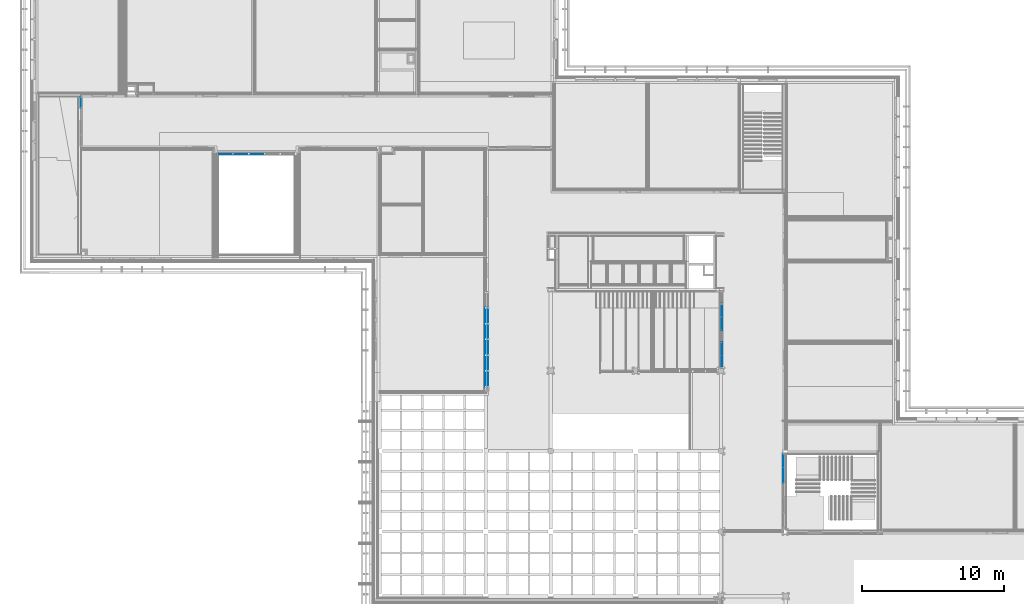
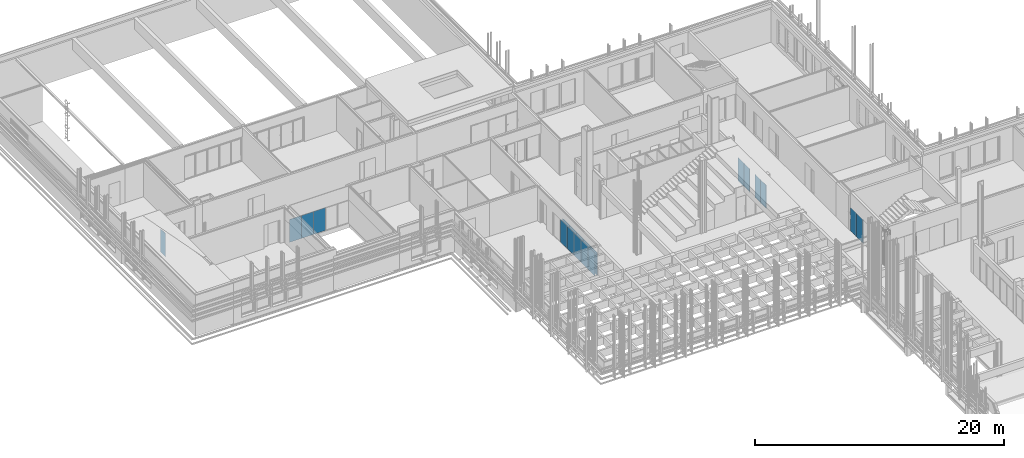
# One storey, part 18 of 139: 20 plates, 6 elements without a shape of their own.
"""IFC2X3 building model written with IfcOpenShell, lengths in millimetres."""

from ifc_helpers import new_model, entity, si_unit, converted_unit, derived_unit, money_unit, direction, frame, origin_with_axes, place, context, subcontext, project, spatial, faceted_brep, source, transform, mapped, material, type_object, element, aggregate, save


model = new_model("IFC2X3")

# Units and contexts
model_context = context("Model", 3, precision=0.01, world=origin_with_axes(), true_north=direction((0.0, 1.0)))
body_context = subcontext(model_context, "Body", "Model", "MODEL_VIEW")
ifc_project = project(units=[si_unit("LENGTHUNIT", "METRE", prefix="MILLI"), si_unit("AREAUNIT", "SQUARE_METRE"), si_unit("VOLUMEUNIT", "CUBIC_METRE"), converted_unit("PLANEANGLEUNIT", "DEGREE", entity("IfcPlaneAngleMeasure", 0.0174532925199), si_unit("PLANEANGLEUNIT", "RADIAN"), dimensions=[0, 0, 0, 0, 0, 0, 0]), money_unit("EUR"), converted_unit("TIMEUNIT", "Year", entity("IfcTimeMeasure", 31556926.0), si_unit("TIMEUNIT", "SECOND"), dimensions=[0, 0, 1, 0, 0, 0, 0]), si_unit("MASSUNIT", "GRAM", prefix="KILO"), si_unit("THERMODYNAMICTEMPERATUREUNIT", "DEGREE_CELSIUS"), si_unit("LUMINOUSINTENSITYUNIT", "LUMEN"), si_unit("ENERGYUNIT", "JOULE", prefix="MEGA"), derived_unit("THERMALCONDUCTANCEUNIT", [(si_unit("POWERUNIT", "WATT"), 1), (si_unit("LENGTHUNIT", "METRE"), -1), (si_unit("THERMODYNAMICTEMPERATUREUNIT", "KELVIN"), -1)]), derived_unit("SPECIFICHEATCAPACITYUNIT", [(si_unit("ENERGYUNIT", "JOULE"), 1), (si_unit("MASSUNIT", "GRAM", prefix="KILO"), -1), (si_unit("THERMODYNAMICTEMPERATUREUNIT", "KELVIN"), -1)]), derived_unit("MASSDENSITYUNIT", [(si_unit("MASSUNIT", "GRAM", prefix="KILO"), 1), (si_unit("VOLUMEUNIT", "CUBIC_METRE"), -1)])], contexts=[model_context])

# Site, building, storey
site_placement = place(None, origin_with_axes())
site = spatial("IfcSite", under=ifc_project, at=site_placement, Name="Kolde pst 67a", CompositionType="ELEMENT")
building_placement = place(site_placement, origin_with_axes())
building = spatial("IfcBuilding", under=site, at=building_placement, Name="Riigigümnaasium", CompositionType="ELEMENT")
storey_placement = place(building_placement, frame((0.0, 0.0, 4600.0), z_axis=(0.0, 0.0, 1.0), x_axis=(1.0, 0.0, 0.0)))
storey = spatial("IfcBuildingStorey", under=building, at=storey_placement, Name="2. korrus", CompositionType="ELEMENT", Elevation=4600.0)

# Curtain wall, plate
curtain_wall_type = type_object("IfcCurtainWallType", Name="Curtain Wall Type", PredefinedType="NOTDEFINED")
curtain_wall_1_placement = place(storey_placement, frame((3208.80952236, 58094.9979478, 0.0), z_axis=(0.0, 0.0, 1.0), x_axis=(1.0, 0.0, 0.0)))
curtain_wall_1 = element("IfcCurtainWall", 1, at=curtain_wall_1_placement, inside=storey, type_object=curtain_wall_type, Name="KLAASSEIN")
ifc_material = material(Name="_GENEERILINE MATERJAL KLAAS")
plate_type_1 = type_object("IfcPlateType", Name="Distinct Panel 20 x 20 x 20", PredefinedType="NOTDEFINED")
shared_shape_1 = source(origin_with_axes(), body_context, "Body", "Brep", [
    faceted_brep([(1019.9999931, 2300.00008941, -10.0), (999.999984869, 2300.00008941, -10.0), (999.999984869, 2300.00008941, 10.0), (1019.9999931, 2300.00008941, 10.0), (1019.9999931, 0.0, -10.0), (999.999984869, 0.0, -10.0), (999.999984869, 20.000008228, -10.0), (264.999999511, 20.000008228, -10.0), (264.999999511, 2280.00008118, -10.0), (999.999984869, 2280.00008118, -10.0), (999.999984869, 2280.00008118, 10.0), (264.999999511, 2280.00008118, 10.0), (264.999999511, 20.000008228, 10.0), (999.999984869, 20.000008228, 10.0), (999.999984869, 0.0, 10.0), (1019.9999931, 0.0, 10.0)], [[[0, 1, 2, 3]], [[0, 4, 5, 6, 7, 8, 9, 1]], [[1, 9, 10, 2]], [[3, 2, 10, 11, 12, 13, 14, 15]], [[4, 0, 3, 15]], [[5, 4, 15, 14]], [[6, 5, 14, 13]], [[7, 6, 13, 12]], [[8, 7, 12, 11]], [[9, 8, 11, 10]]]),
])
plate_1_placement = place(curtain_wall_1_placement, frame((0.0, 877.500004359, 1150.0000447), z_axis=(0.0, 0.0, 1.0), x_axis=(0.0, 1.0, 0.0)))
plate_1 = element("IfcPlate", 2, at=plate_1_placement, type_object=plate_type_1, material=ifc_material, Name="RF PANEEL ERI-049", context=body_context, shape_type="MappedRepresentation", body=[
    mapped(shared_shape_1, transform((622.499995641, 0.0, -1150.0000447), x_axis=(-1.0, 0.0, 0.0), y_axis=(0.0, 0.0, 1.0), z_axis=(0.0, 1.0, 0.0))),
])
aggregate(curtain_wall_1, [plate_1])

# Curtain wall, plates
curtain_wall_2_placement = place(storey_placement, frame((31870.0027331, 43954.3993317, -4.05869560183e-06), z_axis=(0.0, 0.0, 1.0), x_axis=(1.0, 0.0, 0.0)))
curtain_wall_2 = element("IfcCurtainWall", 3, at=curtain_wall_2_placement, inside=storey, type_object=curtain_wall_type, Name="KLAASSEIN")
plate_type_2 = type_object("IfcPlateType", Name="Distinct Panel 1100 x 2240 x 20", PredefinedType="NOTDEFINED")
shared_shape_2 = source(origin_with_axes(), body_context, "Body", "Brep", [
    faceted_brep([(-1105.00001089, 2270.00000997, -10.0), (-1105.00001089, 2270.00000997, 10.0), (-5.00001043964, 2270.00000997, 10.0), (-5.00001043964, 2270.00000997, -10.0), (-1105.00001089, 29.9999940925, -10.0), (-1105.00001089, 29.9999940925, 10.0), (-5.00001043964, 29.9999940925, 10.0), (-5.00001043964, 29.9999940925, -10.0)], [[[0, 1, 2, 3]], [[4, 5, 1, 0]], [[1, 5, 6, 2]], [[3, 2, 6, 7]], [[0, 3, 7, 4]], [[7, 6, 5, 4]]]),
])
plate_2_placement = place(curtain_wall_2_placement, frame((0.0, 0.0, 1150.00000203), z_axis=(0.0, 0.0, 1.0), x_axis=(0.0, 1.0, 0.0)))
plate_2 = element("IfcPlate", 4, at=plate_2_placement, type_object=plate_type_2, material=ifc_material, Name="RF PANEEL ERI-020", context=body_context, shape_type="MappedRepresentation", body=[
    mapped(shared_shape_2, transform((555.0, 0.0, -1150.00000203), x_axis=(1.0, 0.0, 0.0), y_axis=(0.0, 0.0, 1.0), z_axis=(0.0, -1.0, 0.0))),
])
plate_3_placement = place(curtain_wall_2_placement, frame((0.0, -1110.0, 1150.00000203), z_axis=(0.0, 0.0, 1.0), x_axis=(0.0, 1.0, 0.0)))
plate_3 = element("IfcPlate", 5, at=plate_3_placement, type_object=plate_type_2, material=ifc_material, Name="RF PANEEL ERI-021", context=body_context, shape_type="MappedRepresentation", body=[
    mapped(shared_shape_2, transform((555.0, 0.0, -1150.00000203), x_axis=(1.0, 0.0, 0.0), y_axis=(0.0, 0.0, 1.0), z_axis=(0.0, -1.0, 0.0))),
])
plate_4_placement = place(curtain_wall_2_placement, frame((0.0, -2220.0, 1150.00000203), z_axis=(0.0, 0.0, 1.0), x_axis=(0.0, 1.0, 0.0)))
plate_4 = element("IfcPlate", 6, at=plate_4_placement, type_object=plate_type_2, material=ifc_material, Name="RF PANEEL ERI-022", context=body_context, shape_type="MappedRepresentation", body=[
    mapped(shared_shape_2, transform((555.0, 0.0, -1150.00000203), x_axis=(1.0, 0.0, 0.0), y_axis=(0.0, 0.0, 1.0), z_axis=(0.0, -1.0, 0.0))),
])
plate_5_placement = place(curtain_wall_2_placement, frame((0.0, -3330.0, 1150.00000203), z_axis=(0.0, 0.0, 1.0), x_axis=(0.0, 1.0, 0.0)))
plate_5 = element("IfcPlate", 7, at=plate_5_placement, type_object=plate_type_2, material=ifc_material, Name="RF PANEEL ERI-023", context=body_context, shape_type="MappedRepresentation", body=[
    mapped(shared_shape_2, transform((555.0, 0.0, -1150.00000203), x_axis=(1.0, 0.0, 0.0), y_axis=(0.0, 0.0, 1.0), z_axis=(0.0, -1.0, 0.0))),
])
plate_6_placement = place(curtain_wall_2_placement, frame((0.0, -4440.0, 1150.00000203), z_axis=(0.0, 0.0, 1.0), x_axis=(0.0, 1.0, 0.0)))
plate_6 = element("IfcPlate", 8, at=plate_6_placement, type_object=plate_type_2, material=ifc_material, Name="RF PANEEL ERI-027", context=body_context, shape_type="MappedRepresentation", body=[
    mapped(shared_shape_2, transform((555.0, 0.0, -1150.00000203), x_axis=(1.0, 0.0, 0.0), y_axis=(0.0, 0.0, 1.0), z_axis=(0.0, -1.0, 0.0))),
])
aggregate(curtain_wall_2, [plate_2, plate_3, plate_4, plate_5, plate_6])

curtain_wall_3_placement = place(storey_placement, frame((15575.0032916, 55314.9743005, 0.0), z_axis=(0.0, 0.0, 1.0), x_axis=(1.0, 0.0, 0.0)))
curtain_wall_3 = element("IfcCurtainWall", 9, at=curtain_wall_3_placement, inside=storey, type_object=curtain_wall_type, Name="KLAASSEIN")
shared_shape_3 = source(origin_with_axes(), body_context, "Body", "Brep", [
    faceted_brep([(-1105.00001333, 2270.00008538, -10.0), (-1105.00001333, 2270.00008538, 10.0), (-5.00001060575, 2270.00008538, 10.0), (-5.00001060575, 2270.00008538, -10.0), (-1105.00001333, 29.9999950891, -10.0), (-1105.00001333, 29.9999950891, 10.0), (-5.00001060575, 29.9999950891, 10.0), (-5.00001060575, 29.9999950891, -10.0)], [[[0, 1, 2, 3]], [[4, 5, 1, 0]], [[1, 5, 6, 2]], [[3, 2, 6, 7]], [[0, 3, 7, 4]], [[7, 6, 5, 4]]]),
])
plate_7_placement = place(curtain_wall_3_placement, frame((0.0, 0.0, 1150.00004023), z_axis=(0.0, 0.0, 1.0), x_axis=(0.999999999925, 1.22346236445e-05, 0.0)))
plate_7 = element("IfcPlate", 10, at=plate_7_placement, type_object=plate_type_2, material=ifc_material, Name="RF PANEEL ERI-031", context=body_context, shape_type="MappedRepresentation", body=[
    mapped(shared_shape_3, transform((555.0, 0.0, -1150.00004023), x_axis=(1.0, 0.0, 0.0), y_axis=(0.0, 0.0, 1.0), z_axis=(0.0, -1.0, 0.0))),
])
plate_8_placement = place(curtain_wall_3_placement, frame((-1109.99999992, -0.0135804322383, 1150.00004023), z_axis=(0.0, 0.0, 1.0), x_axis=(0.999999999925, 1.22346236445e-05, 0.0)))
plate_8 = element("IfcPlate", 11, at=plate_8_placement, type_object=plate_type_2, material=ifc_material, Name="RF PANEEL ERI-032", context=body_context, shape_type="MappedRepresentation", body=[
    mapped(shared_shape_3, transform((555.0, 0.0, -1150.00004023), x_axis=(1.0, 0.0, 0.0), y_axis=(0.0, 0.0, 1.0), z_axis=(0.0, -1.0, 0.0))),
])
plate_9_placement = place(curtain_wall_3_placement, frame((-2219.99999983, -0.0271608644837, 1150.00004023), z_axis=(0.0, 0.0, 1.0), x_axis=(0.999999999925, 1.22346236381e-05, 0.0)))
plate_9 = element("IfcPlate", 12, at=plate_9_placement, type_object=plate_type_2, material=ifc_material, Name="RF PANEEL ERI-036", context=body_context, shape_type="MappedRepresentation", body=[
    mapped(shared_shape_3, transform((555.0, 0.0, -1150.00004023), x_axis=(1.0, 0.0, 0.0), y_axis=(0.0, 0.0, 1.0), z_axis=(0.0, -1.0, 0.0))),
])
aggregate(curtain_wall_3, [plate_7, plate_8, plate_9])

curtain_wall_4_placement = place(storey_placement, frame((31671.5141048, 43954.3993317, -3.29954614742e-05), z_axis=(0.0, 0.0, 1.0), x_axis=(1.0, 0.0, 0.0)))
curtain_wall_4 = element("IfcCurtainWall", 13, at=curtain_wall_4_placement, inside=storey, type_object=curtain_wall_type, Name="KLAASSEIN")
shared_shape_4 = source(origin_with_axes(), body_context, "Body", "Brep", [
    faceted_brep([(1105.00001089, 2270.00000997, -10.0), (5.00001043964, 2270.00000997, -10.0), (5.00001043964, 2270.00000997, 10.0), (1105.00001089, 2270.00000997, 10.0), (1105.00001089, 29.9999940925, -10.0), (5.00001043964, 29.9999940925, -10.0), (5.00001043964, 29.9999940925, 10.0), (1105.00001089, 29.9999940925, 10.0)], [[[0, 1, 2, 3]], [[0, 4, 5, 1]], [[1, 5, 6, 2]], [[3, 2, 6, 7]], [[4, 0, 3, 7]], [[5, 4, 7, 6]]]),
])
plate_10_placement = place(curtain_wall_4_placement, frame((0.0, 0.0, 1150.0000165), z_axis=(0.0, 0.0, 1.0), x_axis=(0.0, 1.0, 0.0)))
plate_10 = element("IfcPlate", 14, at=plate_10_placement, type_object=plate_type_2, material=ifc_material, Name="RF PANEEL ERI-020", context=body_context, shape_type="MappedRepresentation", body=[
    mapped(shared_shape_4, transform((555.0, 0.0, -1150.0000165), x_axis=(-1.0, 0.0, 0.0), y_axis=(0.0, 0.0, 1.0), z_axis=(0.0, 1.0, 0.0))),
])
plate_11_placement = place(curtain_wall_4_placement, frame((0.0, -1110.0, 1150.0000165), z_axis=(0.0, 0.0, 1.0), x_axis=(0.0, 1.0, 0.0)))
plate_11 = element("IfcPlate", 15, at=plate_11_placement, type_object=plate_type_2, material=ifc_material, Name="RF PANEEL ERI-021", context=body_context, shape_type="MappedRepresentation", body=[
    mapped(shared_shape_4, transform((555.0, 0.0, -1150.0000165), x_axis=(-1.0, 0.0, 0.0), y_axis=(0.0, 0.0, 1.0), z_axis=(0.0, 1.0, 0.0))),
])
plate_12_placement = place(curtain_wall_4_placement, frame((0.0, -2220.0, 1150.0000165), z_axis=(0.0, 0.0, 1.0), x_axis=(0.0, 1.0, 0.0)))
plate_12 = element("IfcPlate", 16, at=plate_12_placement, type_object=plate_type_2, material=ifc_material, Name="RF PANEEL ERI-022", context=body_context, shape_type="MappedRepresentation", body=[
    mapped(shared_shape_4, transform((555.0, 0.0, -1150.0000165), x_axis=(-1.0, 0.0, 0.0), y_axis=(0.0, 0.0, 1.0), z_axis=(0.0, 1.0, 0.0))),
])
plate_13_placement = place(curtain_wall_4_placement, frame((0.0, -3330.0, 1150.0000165), z_axis=(0.0, 0.0, 1.0), x_axis=(0.0, 1.0, 0.0)))
plate_13 = element("IfcPlate", 17, at=plate_13_placement, type_object=plate_type_2, material=ifc_material, Name="RF PANEEL ERI-023", context=body_context, shape_type="MappedRepresentation", body=[
    mapped(shared_shape_4, transform((555.0, 0.0, -1150.0000165), x_axis=(-1.0, 0.0, 0.0), y_axis=(0.0, 0.0, 1.0), z_axis=(0.0, 1.0, 0.0))),
])
plate_14_placement = place(curtain_wall_4_placement, frame((0.0, -4440.0, 1150.0000165), z_axis=(0.0, 0.0, 1.0), x_axis=(0.0, 1.0, 0.0)))
plate_14 = element("IfcPlate", 18, at=plate_14_placement, type_object=plate_type_2, material=ifc_material, Name="RF PANEEL ERI-027", context=body_context, shape_type="MappedRepresentation", body=[
    mapped(shared_shape_4, transform((555.0, 0.0, -1150.0000165), x_axis=(-1.0, 0.0, 0.0), y_axis=(0.0, 0.0, 1.0), z_axis=(0.0, 1.0, 0.0))),
])
aggregate(curtain_wall_4, [plate_10, plate_11, plate_12, plate_13, plate_14])

curtain_wall_5_placement = place(storey_placement, frame((48304.9854607, 45219.9999598, 0.0), z_axis=(0.0, 0.0, 1.0), x_axis=(1.0, 0.0, 0.0)))
curtain_wall_5 = element("IfcCurtainWall", 19, at=curtain_wall_5_placement, inside=storey, type_object=curtain_wall_type, Name="KLAASSEIN")
shared_shape_5 = source(origin_with_axes(), body_context, "Body", "Brep", [
    faceted_brep([(-920.000009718, 2300.00008941, -10.0), (-920.000009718, 2300.00008941, 10.0), (-900.00000149, 2300.00008941, 10.0), (-900.00000149, 2300.00008941, -10.0), (-920.000009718, 0.0, -10.0), (-920.000009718, 0.0, 10.0), (-900.00000149, 0.0, 10.0), (-900.00000149, 20.000008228, 10.0), (-8.22804224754e-06, 20.000008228, 10.0), (-8.22804224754e-06, 0.0, 10.0), (20.0, 0.0, 10.0), (20.0, 2300.00008941, 10.0), (-8.22804224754e-06, 2300.00008941, 10.0), (-8.22804224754e-06, 2280.00008118, 10.0), (-900.00000149, 2280.00008118, 10.0), (-900.00000149, 2280.00008118, -10.0), (-8.22804224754e-06, 2280.00008118, -10.0), (-8.22804224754e-06, 2300.00008941, -10.0), (20.0, 2300.00008941, -10.0), (20.0, 0.0, -10.0), (-8.22804224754e-06, 0.0, -10.0), (-8.22804224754e-06, 20.000008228, -10.0), (-900.00000149, 20.000008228, -10.0), (-900.00000149, 0.0, -10.0)], [[[0, 1, 2, 3]], [[4, 5, 1, 0]], [[1, 5, 6, 7, 8, 9, 10, 11, 12, 13, 14, 2]], [[3, 2, 14, 15]], [[0, 3, 15, 16, 17, 18, 19, 20, 21, 22, 23, 4]], [[23, 6, 5, 4]], [[22, 7, 6, 23]], [[21, 8, 7, 22]], [[20, 9, 8, 21]], [[19, 10, 9, 20]], [[18, 11, 10, 19]], [[17, 12, 11, 18]], [[16, 13, 12, 17]], [[15, 14, 13, 16]]]),
])
plate_15_placement = place(curtain_wall_5_placement, frame((0.0, -900.0, 1150.0000447), z_axis=(0.0, 0.0, 1.0), x_axis=(0.0, 1.0, 0.0)))
plate_15 = element("IfcPlate", 20, at=plate_15_placement, type_object=plate_type_1, material=ifc_material, Name="RF PANEEL ERI-024", context=body_context, shape_type="MappedRepresentation", body=[
    mapped(shared_shape_5, transform((450.0, 0.0, -1150.0000447), x_axis=(1.0, 0.0, 0.0), y_axis=(0.0, 0.0, 1.0), z_axis=(0.0, -1.0, 0.0))),
])
plate_16_placement = place(curtain_wall_5_placement, frame((0.0, -1800.0, 1150.0000447), z_axis=(0.0, 0.0, 1.0), x_axis=(0.0, 1.0, 0.0)))
plate_16 = element("IfcPlate", 21, at=plate_16_placement, type_object=plate_type_1, material=ifc_material, Name="RF PANEEL ERI-025", context=body_context, shape_type="MappedRepresentation", body=[
    mapped(shared_shape_5, transform((450.0, 0.0, -1150.0000447), x_axis=(1.0, 0.0, 0.0), y_axis=(0.0, 0.0, 1.0), z_axis=(0.0, -1.0, 0.0))),
])
plate_17_placement = place(curtain_wall_5_placement, frame((0.0, -3600.0, 1150.0000447), z_axis=(0.0, 0.0, 1.0), x_axis=(0.0, 1.0, 0.0)))
plate_17 = element("IfcPlate", 22, at=plate_17_placement, type_object=plate_type_1, material=ifc_material, Name="RF PANEEL ERI-027", context=body_context, shape_type="MappedRepresentation", body=[
    mapped(shared_shape_5, transform((450.0, 0.0, -1150.0000447), x_axis=(1.0, 0.0, 0.0), y_axis=(0.0, 0.0, 1.0), z_axis=(0.0, -1.0, 0.0))),
])
plate_type_3 = type_object("IfcPlateType", Name="Distinct Panel 20 x 2300 x 20", PredefinedType="NOTDEFINED")
shared_shape_6 = source(origin_with_axes(), body_context, "Body", "Brep", [
    faceted_brep([(-8.22804224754e-06, 2300.00008941, -10.0), (-8.22804224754e-06, 2300.00008941, 10.0), (20.0, 2300.00008941, 10.0), (20.0, 2300.00008941, -10.0), (-8.22804224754e-06, 2280.00008118, -10.0), (-8.22804224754e-06, 2280.00008118, 10.0), (-869.999972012, 2280.00008118, 10.0), (-869.999972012, 20.000008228, 10.0), (-8.22804224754e-06, 20.000008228, 10.0), (-8.22804224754e-06, 0.0, 10.0), (20.0, 0.0, 10.0), (20.0, 0.0, -10.0), (-8.22804224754e-06, 0.0, -10.0), (-8.22804224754e-06, 20.000008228, -10.0), (-869.999972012, 20.000008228, -10.0), (-869.999972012, 2280.00008118, -10.0)], [[[0, 1, 2, 3]], [[4, 5, 1, 0]], [[1, 5, 6, 7, 8, 9, 10, 2]], [[3, 2, 10, 11]], [[0, 3, 11, 12, 13, 14, 15, 4]], [[15, 6, 5, 4]], [[14, 7, 6, 15]], [[13, 8, 7, 14]], [[12, 9, 8, 13]], [[11, 10, 9, 12]]]),
])
plate_18_placement = place(curtain_wall_5_placement, frame((0.0, -4494.99998212, 1150.0000447), z_axis=(0.0, 0.0, 1.0), x_axis=(0.0, 1.0, 0.0)))
plate_18 = element("IfcPlate", 23, at=plate_18_placement, type_object=plate_type_3, material=ifc_material, Name="RF PANEEL ERI-028", context=body_context, shape_type="MappedRepresentation", body=[
    mapped(shared_shape_6, transform((444.999982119, 0.0, -1150.0000447), x_axis=(1.0, 0.0, 0.0), y_axis=(0.0, 0.0, 1.0), z_axis=(0.0, -1.0, 0.0))),
])
aggregate(curtain_wall_5, [plate_15, plate_16, plate_17, plate_18])

curtain_wall_6_placement = place(storey_placement, frame((52619.9941222, 32759.7635899, -0.000120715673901), z_axis=(0.0, 0.0, 1.0), x_axis=(1.0, 0.0, 0.0)))
curtain_wall_6 = element("IfcCurtainWall", 24, at=curtain_wall_6_placement, inside=storey, type_object=curtain_wall_type, Name="KLAASSEIN")
shared_shape_7 = source(origin_with_axes(), body_context, "Body", "Brep", [
    faceted_brep([(1070.00001192, 2300.0, -10.0), (1050.00000447, 2300.0, -10.0), (1050.00000447, 2300.0, 10.0), (1070.00001192, 2300.0, 10.0), (1070.00001192, 0.0, -10.0), (1050.00000447, 0.0, -10.0), (1050.00000447, 20.0000074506, -10.0), (7.45058770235e-06, 20.0000074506, -10.0), (7.45058770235e-06, 0.0, -10.0), (-20.0, 0.0, -10.0), (-20.0, 2300.0, -10.0), (7.45058770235e-06, 2300.0, -10.0), (7.45058770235e-06, 2279.99999255, -10.0), (1050.00000447, 2279.99999255, -10.0), (1050.00000447, 2279.99999255, 10.0), (7.45058770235e-06, 2279.99999255, 10.0), (7.45058770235e-06, 2300.0, 10.0), (-20.0, 2300.0, 10.0), (-20.0, 0.0, 10.0), (7.45058770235e-06, 0.0, 10.0), (7.45058770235e-06, 20.0000074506, 10.0), (1050.00000447, 20.0000074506, 10.0), (1050.00000447, 0.0, 10.0), (1070.00001192, 0.0, 10.0)], [[[0, 1, 2, 3]], [[0, 4, 5, 6, 7, 8, 9, 10, 11, 12, 13, 1]], [[1, 13, 14, 2]], [[3, 2, 14, 15, 16, 17, 18, 19, 20, 21, 22, 23]], [[4, 0, 3, 23]], [[5, 4, 23, 22]], [[6, 5, 22, 21]], [[7, 6, 21, 20]], [[8, 7, 20, 19]], [[9, 8, 19, 18]], [[10, 9, 18, 17]], [[11, 10, 17, 16]], [[12, 11, 16, 15]], [[13, 12, 15, 14]]]),
])
plate_19_placement = place(curtain_wall_6_placement, frame((0.0, 0.0, 1150.00006036), z_axis=(0.0, 0.0, 1.0), x_axis=(0.0, 1.0, 0.0)))
plate_19 = element("IfcPlate", 25, at=plate_19_placement, type_object=plate_type_1, material=ifc_material, Name="RF PANEEL ERI-060", context=body_context, shape_type="MappedRepresentation", body=[
    mapped(shared_shape_7, transform((525.0, 0.0, -1150.00006036), x_axis=(-1.0, 0.0, 0.0), y_axis=(0.0, 0.0, 1.0), z_axis=(0.0, 1.0, 0.0))),
])
shared_shape_8 = source(origin_with_axes(), body_context, "Body", "Brep", [
    faceted_brep([(1069.99998458, 2300.00012072, -10.0), (1050.00001035, 2300.00012072, -10.0), (1050.00001035, 2300.00012072, 10.0), (1069.99998458, 2300.00012072, 10.0), (1069.99998458, 0.0, -10.0), (1050.00001035, 0.0, -10.0), (1050.00001035, 20.0000085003, -10.0), (114.763585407, 20.0000085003, -10.0), (114.763585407, 2280.00011222, -10.0), (1050.00001035, 2280.00011222, -10.0), (1050.00001035, 2280.00011222, 10.0), (114.763585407, 2280.00011222, 10.0), (114.763585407, 20.0000085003, 10.0), (1050.00001035, 20.0000085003, 10.0), (1050.00001035, 0.0, 10.0), (1069.99998458, 0.0, 10.0)], [[[0, 1, 2, 3]], [[0, 4, 5, 6, 7, 8, 9, 1]], [[1, 9, 10, 2]], [[3, 2, 10, 11, 12, 13, 14, 15]], [[4, 0, 3, 15]], [[5, 4, 15, 14]], [[6, 5, 14, 13]], [[7, 6, 13, 12]], [[8, 7, 12, 11]], [[9, 8, 11, 10]]]),
])
plate_20_placement = place(curtain_wall_6_placement, frame((0.0, 1002.61821155, 1150.00006036), z_axis=(0.0, 0.0, 1.0), x_axis=(0.0, 1.0, 0.0)))
plate_20 = element("IfcPlate", 26, at=plate_20_placement, type_object=plate_type_1, material=ifc_material, Name="RF PANEEL ERI-059", context=body_context, shape_type="MappedRepresentation", body=[
    mapped(shared_shape_8, transform((572.381788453, 0.0, -1150.00006036), x_axis=(-1.0, 0.0, 0.0), y_axis=(0.0, 0.0, 1.0), z_axis=(0.0, 1.0, 0.0))),
])
aggregate(curtain_wall_6, [plate_19, plate_20])

save(model, "model.ifc")
